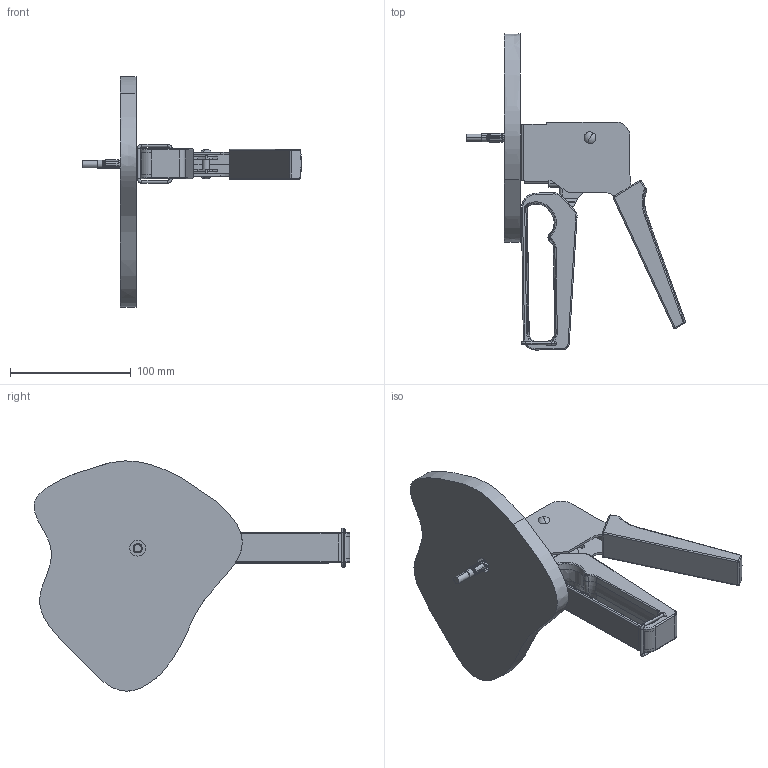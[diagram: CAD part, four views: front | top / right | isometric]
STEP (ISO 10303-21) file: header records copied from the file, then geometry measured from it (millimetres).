
FILE_DESCRIPTION(('CATIA V5 STEP Exchange'),'2;1');
FILE_NAME('G:\Pince Molly Internet\Comportement des Systèmes Techniques\TP1\Maquette numérique\Maquette numérique Pince Molly-CATIA\STEP\Pince+cheville+vis.stp','2009-12-08T08:50:10+00:00',('none'),('none'),'CATIA Version 5 Release 16 (IN-10)','CATIA V5 STEP AP203','none');
FILE_SCHEMA(('CONFIG_CONTROL_DESIGN'));
Length unit declared in the file: millimetre
Products named in the file (1): Pince + Cheville + vis
Assembly tree (10 placements, depth 2):
  Pince + Cheville + vis
    #56
    #2428
    #2636
    #4751
    #7356
    #10230
    #12315
    #12758
    #13035
    #18315
Bounding box: 181.74 x 261.76 x 190.73 mm (x, y, z)
Volume: 475591 mm3; surface area: 148437.2 mm2
Topology: 10 solids, 10 shells, 544 faces, 1446 edges, 903 vertices
Faces by surface type: cylinder 217, plane 211, cone 46, bspline 33, torus 20, sphere 11, revolution 4, extrusion 2
Entity records: 19009 total; most frequent: CARTESIAN_POINT 6744, ORIENTED_EDGE 2866, DIRECTION 1846, EDGE_CURVE 1433, VERTEX_POINT 903, AXIS2_PLACEMENT_3D 796, VECTOR 703, LINE 701
